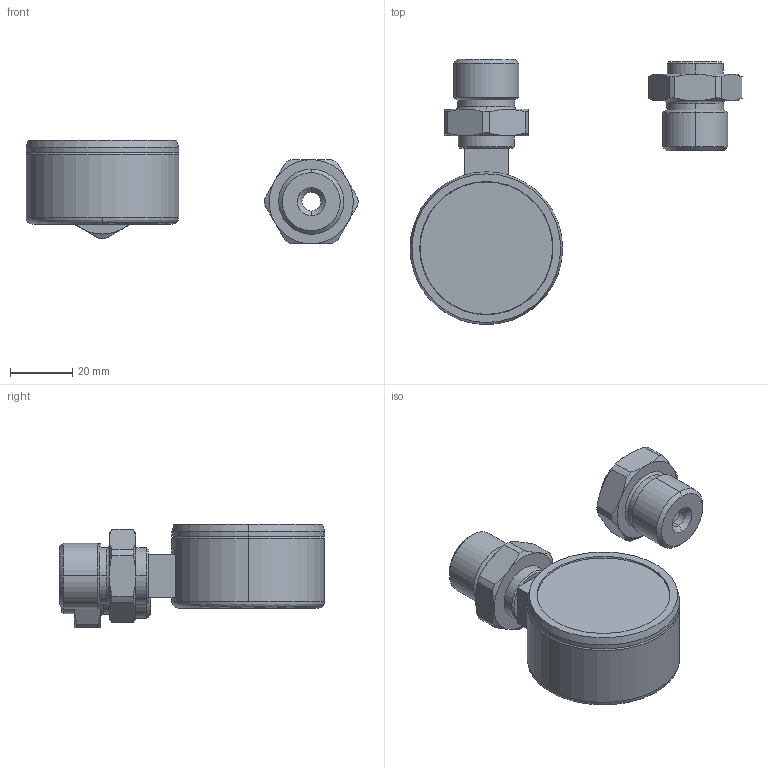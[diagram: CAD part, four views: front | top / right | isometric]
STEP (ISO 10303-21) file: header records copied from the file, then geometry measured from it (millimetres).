
FILE_DESCRIPTION (( 'STEP AP214' ), '1' );
FILE_NAME ('80920.STEP', '2022-11-21T09:26:39', ( '' ), ( '' ), 'SwSTEP 2.0', 'SolidWorks 2022', '' );
FILE_SCHEMA (( 'AUTOMOTIVE_DESIGN' ));
Length unit declared in the file: millimetre
Products named in the file (9): 80920; ZIFFERN; ZEIGER; 001_000X; RF50_G1-8_RAD; GLAS; TEXT; GEHAEUSE; MONTAGEVENTIL
Assembly tree (8 placements, depth 3):
  80920
    001_000X
    RF50_G1-8_RAD
      GLAS
      ZEIGER
      GEHAEUSE
      ZIFFERN
      TEXT
      MONTAGEVENTIL
Bounding box: 106.55 x 85.1 x 33.22 mm (x, y, z)
Volume: 63630.3 mm3; surface area: 22502.6 mm2
Topology: 37 solids, 37 shells, 527 faces, 1191 edges, 758 vertices
Faces by surface type: plane 300, cylinder 137, cone 84, bspline 6
Entity records: 18624 total; most frequent: CARTESIAN_POINT 3214, DIRECTION 2551, ORIENTED_EDGE 2382, EDGE_CURVE 1191, AXIS2_PLACEMENT_3D 881, VECTOR 789, LINE 789, VERTEX_POINT 758
